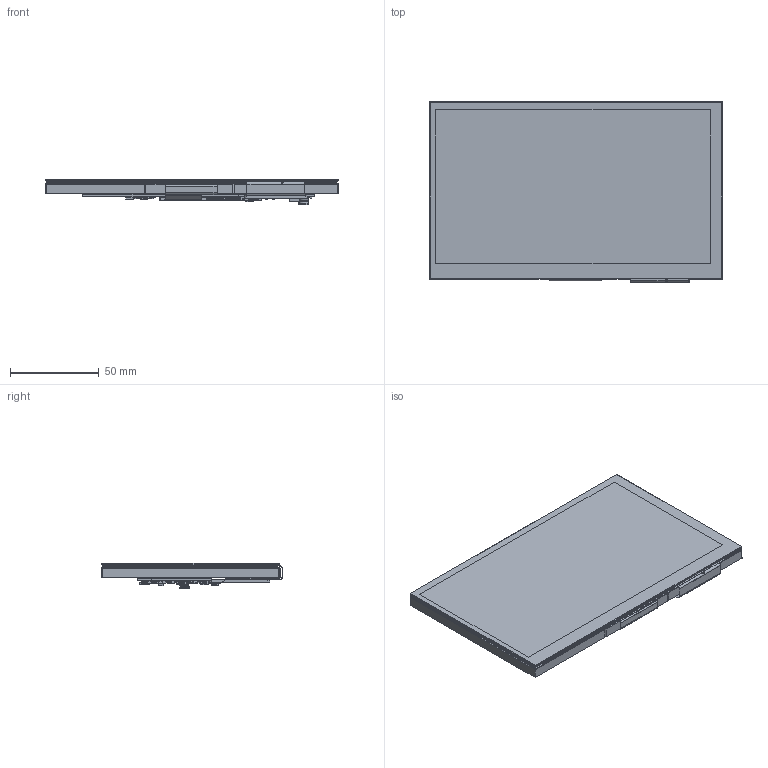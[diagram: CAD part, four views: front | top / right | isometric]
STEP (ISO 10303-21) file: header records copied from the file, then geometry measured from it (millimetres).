
FILE_DESCRIPTION(/* description */ (''),/* implementation_level */ '2;1');
FILE_NAME(/* name */ 'D:\Onedrive\Riverdi Sp. z o.o\Standard Products - Dokumenty\04-MODULES SERIES\RIVMS010-TORADEX DSI LINE\02-70\02-Drawings\3D\work\RVT70HSDNWCA0\3D_RVT70HSDNWCA0_Rev.1.0.stp',/* time_stamp */ '2024-11-27T11:50:01+01:00',/* author */ ('Mateusz Natywa'),/* organization */ (''),/* preprocessor_version */ 'ST-DEVELOPER v17',/* originating_system */ 'Autodesk Inventor 2019',/* authorisation */ '');
FILE_SCHEMA (('CONFIG_CONTROL_DESIGN'));
Products named in the file (301): 3D_RVT70HSDNWCA0_Rev.1.0; CTP; CG; SCA; SENSOR; FPC; Part23; TFT; DISP; FPC_1; 70TRDXDSI_REV0.2 1; Board; Open CASCADE STEP translator 7.5 3.1.1; T9; T8; SOT23-3; R52; R51; R50; R49; R48; C60; C59; C58; D17; D16; D14; D13; 6289011312; Extruded; U4; 5930757408; U5; 5930758768; Body; Open CASCADE STEP translator 6.8 33.1.1; Leader; D2; D3; C19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
Assembly tree (616 placements, depth 6):
  3D_RVT70HSDNWCA0_Rev.1.0
    CTP
      CG
      SCA
      SENSOR
      FPC
      Part23
    TFT
      DISP
      FPC_1
    70TRDXDSI_REV0.2 1
      Board
        Open CASCADE STEP translator 7.5 3.1.1
      T9
        SOT23-3
      T8
        SOT23-3
      R52
        WRIS-KSKE_0402
          Body_7
          Pins
          Pins_1
          Cover
      R51
        WRIS-KSKE_0402
          Body_7
          Pins
          Pins_1
          Cover
      R50
        WRIS-KSKE_0402
          Body_7
          Pins
          Pins_1
          Cover
      R49
        WRIS-KSKE_0402
          Body_7
          Pins
          Pins_1
          Cover
      R48
        WRIS-KSKE_0402
          Body_7
          Pins
          Pins_1
          Cover
      C60
        5930762528
          Terminal
            Open CASCADE STEP translator 6.8 7.1.1
            Open CASCADE STEP translator 6.8 7.1.2
          Mid_Body
            Open CASCADE STEP translator 6.8 7.2.1
      C59
        5930764448
          Terminal_1
            Open CASCADE STEP translator 6.8 7.1.1_1
            Open CASCADE STEP translator 6.8 7.1.2_1
          Mid_Body_1
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Bounding box: 164.9 x 101.71 x 14.46 mm (x, y, z)
Volume: 133585.6 mm3; surface area: 170585.3 mm2
Topology: 724 solids, 724 shells, 13574 faces, 34606 edges, 21527 vertices
Faces by surface type: plane 9945, cylinder 2746, sphere 597, bspline 244, torus 28, cone 14
Full cylindrical faces by diameter (mm): 0.138 x3, 0.155 x1, 0.425 x22, 0.469 x2, 0.6 x2, 0.625 x1, 1 x1, 2 x4, 4 x1
Entity records: 192750 total; most frequent: CARTESIAN_POINT 44020, ORIENTED_EDGE 29344, DIRECTION 28481, EDGE_CURVE 14672, LINE 12289, VECTOR 12289, VERTEX_POINT 9386, AXIS2_PLACEMENT_3D 8096
